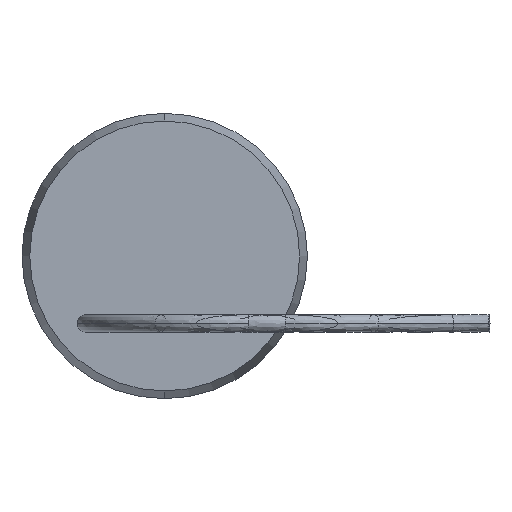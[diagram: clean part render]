
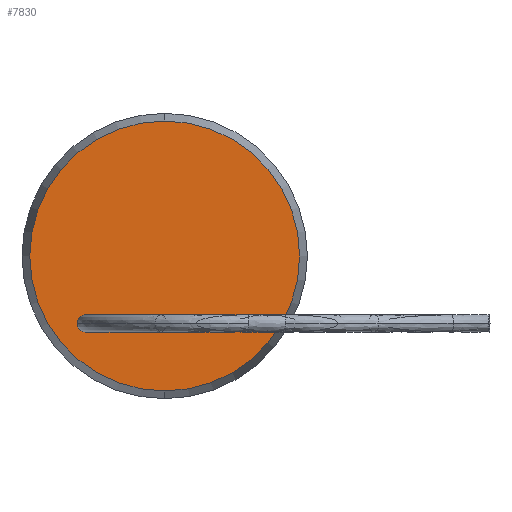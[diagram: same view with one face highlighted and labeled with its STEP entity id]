
A CAD part, left-side view. The second image highlights one B-rep face of the part: STEP entity #7830.
In plain terms, the highlighted planar face has unit normal (-1, 0, 0).
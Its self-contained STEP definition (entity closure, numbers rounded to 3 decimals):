
#6 = VERTEX_POINT ( 'NONE', #110 ) ;
#50 = VERTEX_POINT ( 'NONE', #330 ) ;
#53 = VERTEX_POINT ( 'NONE', #345 ) ;
#73 = VERTEX_POINT ( 'NONE', #439 ) ;
#110 = CARTESIAN_POINT ( 'NONE',  ( 0., 2.54, -4.05 ) ) ;
#258 = CIRCLE ( 'NONE', #259, 0.6 ) ;
#259 = AXIS2_PLACEMENT_3D ( 'NONE', #260, #261, #262 ) ;
#260 = CARTESIAN_POINT ( 'NONE',  ( 0., 0., -4.65 ) ) ;
#261 = DIRECTION ( 'NONE',  ( -1., 0., 0. ) ) ;
#262 = DIRECTION ( 'NONE',  ( 0., 0., 1. ) ) ;
#330 = CARTESIAN_POINT ( 'NONE',  ( 0., -2.54, -4.05 ) ) ;
#345 = CARTESIAN_POINT ( 'NONE',  ( 0., -2.54, -5.25 ) ) ;
#439 = CARTESIAN_POINT ( 'NONE',  ( 0., 0., -5.25 ) ) ;
#1030 = CIRCLE ( 'NONE', #1031, 0.6 ) ;
#1031 = AXIS2_PLACEMENT_3D ( 'NONE', #1032, #1033, #1034 ) ;
#1032 = CARTESIAN_POINT ( 'NONE',  ( 0., 2.54, -4.65 ) ) ;
#1033 = DIRECTION ( 'NONE',  ( -1., 0., 0. ) ) ;
#1034 = DIRECTION ( 'NONE',  ( 0., 0., 1. ) ) ;
#1216 = CIRCLE ( 'NONE', #1217, 0.6 ) ;
#1217 = AXIS2_PLACEMENT_3D ( 'NONE', #1220, #1221, #1222 ) ;
#1220 = CARTESIAN_POINT ( 'NONE',  ( 0., 2.54, -4.65 ) ) ;
#1221 = DIRECTION ( 'NONE',  ( -1., 0., 0. ) ) ;
#1222 = DIRECTION ( 'NONE',  ( 0., 0., 1. ) ) ;
#1260 = CARTESIAN_POINT ( 'NONE',  ( 0., 2.54, -5.25 ) ) ;
#1647 = CIRCLE ( 'NONE', #1648, 0.6 ) ;
#1648 = AXIS2_PLACEMENT_3D ( 'NONE', #1649, #1650, #1651 ) ;
#1649 = CARTESIAN_POINT ( 'NONE',  ( 0., 0., -4.65 ) ) ;
#1650 = DIRECTION ( 'NONE',  ( -1., 0., 0. ) ) ;
#1651 = DIRECTION ( 'NONE',  ( 0., 0., 1. ) ) ;
#2538 = CARTESIAN_POINT ( 'NONE',  ( 0., 0., -9.314 ) ) ;
#2557 = CIRCLE ( 'NONE', #2558, 9.314 ) ;
#2558 = AXIS2_PLACEMENT_3D ( 'NONE', #2559, #2560, #2561 ) ;
#2559 = CARTESIAN_POINT ( 'NONE',  ( 0., 0., 0. ) ) ;
#2560 = DIRECTION ( 'NONE',  ( 1., 0., 0. ) ) ;
#2561 = DIRECTION ( 'NONE',  ( 0., 0., -1. ) ) ;
#2646 = CIRCLE ( 'NONE', #2647, 0.6 ) ;
#2647 = AXIS2_PLACEMENT_3D ( 'NONE', #2648, #2649, #2650 ) ;
#2648 = CARTESIAN_POINT ( 'NONE',  ( 0., -2.54, -4.65 ) ) ;
#2649 = DIRECTION ( 'NONE',  ( 1., 0., 0. ) ) ;
#2650 = DIRECTION ( 'NONE',  ( 0., 0., 1. ) ) ;
#3001 = CIRCLE ( 'NONE', #3002, 0.6 ) ;
#3002 = AXIS2_PLACEMENT_3D ( 'NONE', #3003, #3004, #3005 ) ;
#3003 = CARTESIAN_POINT ( 'NONE',  ( 0., -2.54, -4.65 ) ) ;
#3004 = DIRECTION ( 'NONE',  ( 1., 0., 0. ) ) ;
#3005 = DIRECTION ( 'NONE',  ( 0., 0., 1. ) ) ;
#3211 = ORIENTED_EDGE ( 'NONE', *, *, #3512, .T. ) ;
#3502 = CIRCLE ( 'NONE', #3503, 9.314 ) ;
#3503 = AXIS2_PLACEMENT_3D ( 'NONE', #3504, #3505, #3506 ) ;
#3504 = CARTESIAN_POINT ( 'NONE',  ( 0., 0., 0. ) ) ;
#3505 = DIRECTION ( 'NONE',  ( 1., 0., 0. ) ) ;
#3506 = DIRECTION ( 'NONE',  ( 0., 0., -1. ) ) ;
#3512 = EDGE_CURVE ( 'NONE', #50, #53, #3001, .T. ) ;
#3973 = ORIENTED_EDGE ( 'NONE', *, *, #7391, .T. ) ;
#4213 = EDGE_LOOP ( 'NONE', ( #4485, #6741 ) ) ;
#4485 = ORIENTED_EDGE ( 'NONE', *, *, #6776, .F. ) ;
#4874 = FACE_BOUND ( 'NONE', #7895, .T. ) ;
#4875 = FACE_BOUND ( 'NONE', #7368, .T. ) ;
#4876 = FACE_BOUND ( 'NONE', #7524, .T. ) ;
#4877 = FACE_OUTER_BOUND ( 'NONE', #4213, .T. ) ;
#4878 = PLANE ( 'NONE',  #4879 ) ;
#4879 = AXIS2_PLACEMENT_3D ( 'NONE', #4880, #4881, #4882 ) ;
#4880 = CARTESIAN_POINT ( 'NONE',  ( 0., 9.687, 9.687 ) ) ;
#4881 = DIRECTION ( 'NONE',  ( 1., 0., 0. ) ) ;
#4882 = DIRECTION ( 'NONE',  ( 0., -1., 0. ) ) ;
#5305 = CARTESIAN_POINT ( 'NONE',  ( 0., 0., 9.314 ) ) ;
#5899 = CARTESIAN_POINT ( 'NONE',  ( 0., 0., -4.05 ) ) ;
#6549 = VERTEX_POINT ( 'NONE', #5305 ) ;
#6741 = ORIENTED_EDGE ( 'NONE', *, *, #7515, .F. ) ;
#6772 = VERTEX_POINT ( 'NONE', #2538 ) ;
#6776 = EDGE_CURVE ( 'NONE', #6772, #6549, #2557, .T. ) ;
#6866 = EDGE_CURVE ( 'NONE', #8064, #73, #258, .T. ) ;
#7082 = EDGE_CURVE ( 'NONE', #6, #7123, #1030, .T. ) ;
#7112 = EDGE_CURVE ( 'NONE', #7123, #6, #1216, .T. ) ;
#7123 = VERTEX_POINT ( 'NONE', #1260 ) ;
#7218 = EDGE_CURVE ( 'NONE', #73, #8064, #1647, .T. ) ;
#7368 = EDGE_LOOP ( 'NONE', ( #7439, #7495 ) ) ;
#7391 = EDGE_CURVE ( 'NONE', #53, #50, #2646, .T. ) ;
#7439 = ORIENTED_EDGE ( 'NONE', *, *, #6866, .F. ) ;
#7495 = ORIENTED_EDGE ( 'NONE', *, *, #7218, .F. ) ;
#7515 = EDGE_CURVE ( 'NONE', #6549, #6772, #3502, .T. ) ;
#7524 = EDGE_LOOP ( 'NONE', ( #3211, #3973 ) ) ;
#7830 = ADVANCED_FACE ( 'NONE', ( #4874, #4875, #4876, #4877 ), #4878, .F. ) ;
#7895 = EDGE_LOOP ( 'NONE', ( #7977, #8061 ) ) ;
#7977 = ORIENTED_EDGE ( 'NONE', *, *, #7082, .F. ) ;
#8061 = ORIENTED_EDGE ( 'NONE', *, *, #7112, .F. ) ;
#8064 = VERTEX_POINT ( 'NONE', #5899 ) ;
